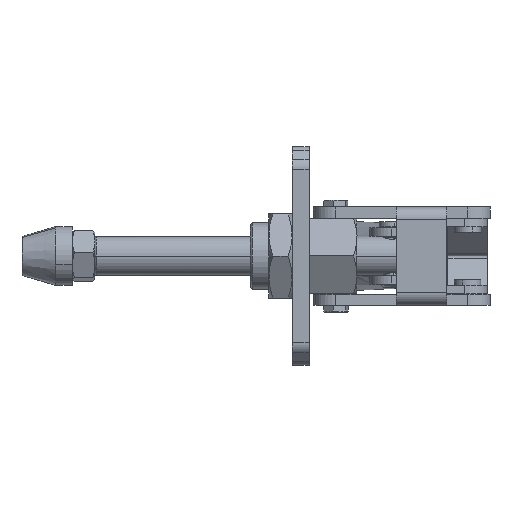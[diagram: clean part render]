
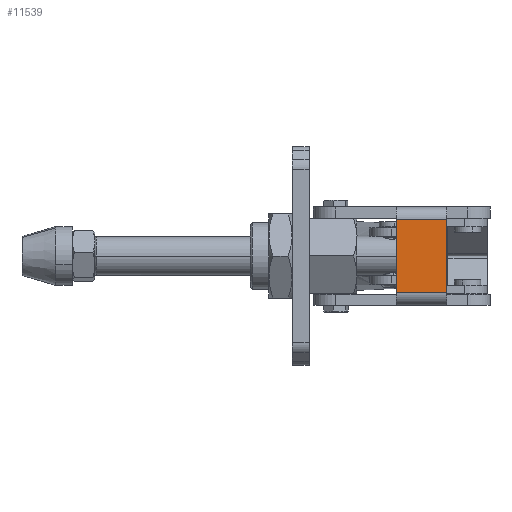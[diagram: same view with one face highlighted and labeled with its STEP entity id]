
A CAD part, front view. The second image highlights one B-rep face of the part: STEP entity #11539.
In plain terms, the highlighted planar face has unit normal (0, -1, 0).
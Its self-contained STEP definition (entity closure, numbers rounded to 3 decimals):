
#391 = VECTOR ( 'NONE', #20847, 1000. ) ;
#549 = LINE ( 'NONE', #7416, #1434 ) ;
#1434 = VECTOR ( 'NONE', #20959, 1000. ) ;
#2081 = LINE ( 'NONE', #18873, #391 ) ;
#2505 = CARTESIAN_POINT ( 'NONE',  ( 1.9, -12.5, -4.5 ) ) ;
#3800 = VERTEX_POINT ( 'NONE', #5111 ) ;
#4407 = FACE_OUTER_BOUND ( 'NONE', #4538, .T. ) ;
#4538 = EDGE_LOOP ( 'NONE', ( #6858, #13669, #9432, #18276 ) ) ;
#5111 = CARTESIAN_POINT ( 'NONE',  ( 1.9, -12.5, -30.6 ) ) ;
#5960 = PLANE ( 'NONE',  #13853 ) ;
#6604 = VERTEX_POINT ( 'NONE', #2505 ) ;
#6858 = ORIENTED_EDGE ( 'NONE', *, *, #9159, .T. ) ;
#6873 = VECTOR ( 'NONE', #21219, 1000. ) ;
#7416 = CARTESIAN_POINT ( 'NONE',  ( -16.1, -12.5, -30.6 ) ) ;
#7524 = DIRECTION ( 'NONE',  ( 0., 0., 1. ) ) ;
#8746 = VERTEX_POINT ( 'NONE', #16153 ) ;
#9159 = EDGE_CURVE ( 'NONE', #8746, #16306, #21296, .T. ) ;
#9432 = ORIENTED_EDGE ( 'NONE', *, *, #13192, .T. ) ;
#9459 = EDGE_CURVE ( 'NONE', #3800, #16306, #549, .T. ) ;
#9517 = EDGE_CURVE ( 'NONE', #8746, #6604, #2081, .T. ) ;
#10935 = CARTESIAN_POINT ( 'NONE',  ( -16.1, -12.5, -30.6 ) ) ;
#11386 = CARTESIAN_POINT ( 'NONE',  ( -16.1, -12.5, -17.55 ) ) ;
#11539 = ADVANCED_FACE ( 'NONE', ( #4407 ), #5960, .F. ) ;
#11549 = CARTESIAN_POINT ( 'NONE',  ( 1.9, -12.5, -4. ) ) ;
#11699 = VECTOR ( 'NONE', #19865, 1000. ) ;
#13192 = EDGE_CURVE ( 'NONE', #3800, #6604, #16382, .T. ) ;
#13669 = ORIENTED_EDGE ( 'NONE', *, *, #9459, .F. ) ;
#13853 = AXIS2_PLACEMENT_3D ( 'NONE', #15882, #16105, #7524 ) ;
#15882 = CARTESIAN_POINT ( 'NONE',  ( 0., -12.5, 0. ) ) ;
#16105 = DIRECTION ( 'NONE',  ( 0., 1., 0. ) ) ;
#16153 = CARTESIAN_POINT ( 'NONE',  ( -16.1, -12.5, -4.5 ) ) ;
#16306 = VERTEX_POINT ( 'NONE', #10935 ) ;
#16382 = LINE ( 'NONE', #11549, #6873 ) ;
#18276 = ORIENTED_EDGE ( 'NONE', *, *, #9517, .F. ) ;
#18873 = CARTESIAN_POINT ( 'NONE',  ( 0., -12.5, -4.5 ) ) ;
#19865 = DIRECTION ( 'NONE',  ( 0., 0., -1. ) ) ;
#20847 = DIRECTION ( 'NONE',  ( 1., 0., 0. ) ) ;
#20959 = DIRECTION ( 'NONE',  ( -1., 0., 0. ) ) ;
#21219 = DIRECTION ( 'NONE',  ( 0., 0., 1. ) ) ;
#21296 = LINE ( 'NONE', #11386, #11699 ) ;
